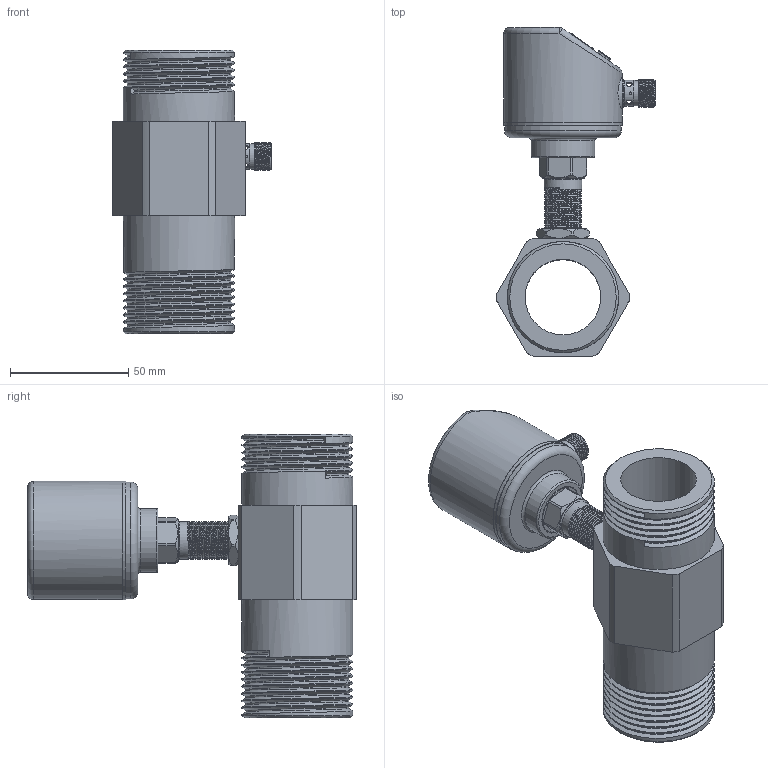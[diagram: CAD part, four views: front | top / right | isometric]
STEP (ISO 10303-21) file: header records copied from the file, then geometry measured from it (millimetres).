
FILE_DESCRIPTION (( 'STEP AP214' ), '1' );
FILE_NAME ('DN32俋杅珆.STEP', '2025-03-05T01:27:07', ( '' ), ( '' ), 'SwSTEP 2.0', 'SolidWorks 2020', '' );
FILE_SCHEMA (( 'AUTOMOTIVE_DESIGN' ));
Length unit declared in the file: millimetre
Products named in the file (10): 抻芛俋蹟恇G1-4; 蹟譫1; 滅阨諉芛褲极1; 偌瑩簽; DN32俋杅珆; 揤薯奻裔; PVC躇猾菜; DN32; 揤薯珆尨欶; 恦謫抻芛5
Assembly tree (11 placements, depth 2):
  DN32俋杅珆
    揤薯奻裔
    揤薯珆尨欶
    滅阨諉芛褲极1
    偌瑩簽  x3
    PVC躇猾菜
    抻芛俋蹟恇G1-4
    恦謫抻芛5
    蹟譫1
    DN32
Bounding box: 67 x 139 x 120 mm (x, y, z)
Volume: 149340.7 mm3; surface area: 70358.5 mm2
Topology: 11 solids, 11 shells, 454 faces, 1094 edges, 715 vertices
Faces by surface type: cylinder 186, plane 167, cone 63, bspline 22, torus 12, sphere 4
Full cylindrical faces by diameter (mm): 1 x4, 1.2 x3, 1.8 x1, 2 x5, 2.5 x7, 2.8 x1, 4.3 x3, 4.5 x6, 7 x15, 7.2 x1, 8.5 x1, 9.75 x1, 10.5 x1, 10.7 x1, 10.8 x1, 10.9 x1, 11 x2, 12 x1, 14 x1, 14.3 x1, 14.4 x1, 14.8 x1, 16 x33, 17.34 x2, 17.4 x1, 21.24 x1, 21.3 x1, 24 x1, 27 x1, 32 x1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
Entity records: 23444 total; most frequent: CARTESIAN_POINT 15051, DIRECTION 1636, ORIENTED_EDGE 1428, EDGE_CURVE 714, AXIS2_PLACEMENT_3D 667, EDGE_LOOP 568, VERTEX_POINT 522, FACE_OUTER_BOUND 441
